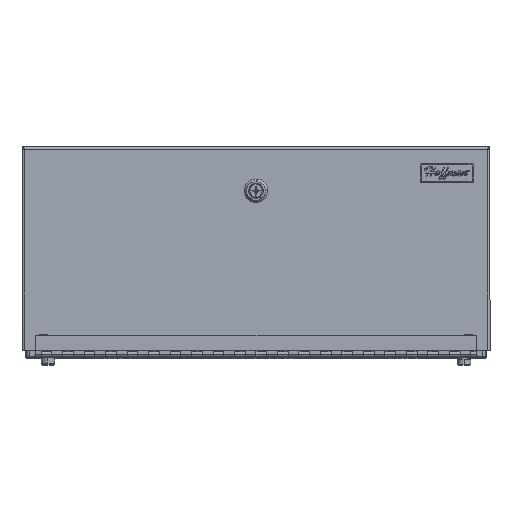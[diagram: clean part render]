
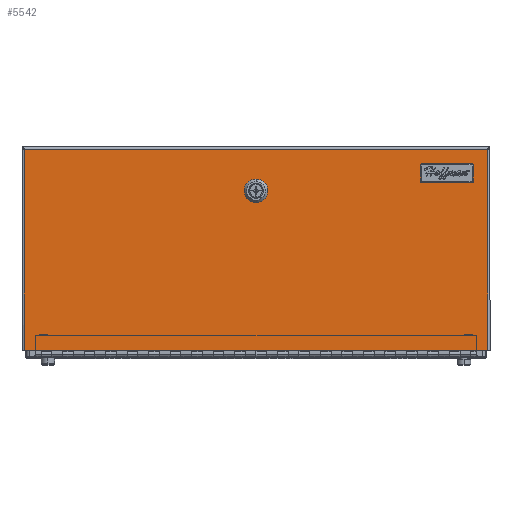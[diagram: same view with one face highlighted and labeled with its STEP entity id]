
A CAD part, top view. The second image highlights one B-rep face of the part: STEP entity #5542.
In plain terms, the highlighted planar face has unit normal (0, 0, 1) as drawn and (0, 0, -1) by its records, which use the part's own axes.
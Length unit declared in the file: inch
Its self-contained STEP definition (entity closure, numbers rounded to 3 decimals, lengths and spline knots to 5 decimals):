
#1524 = ORIENTED_EDGE ( 'NONE', *, *, #1527, .F. ) ;
#1527 = EDGE_CURVE ( 'NONE', #1529, #1557, #61099, .T. ) ;
#1529 = VERTEX_POINT ( 'NONE', #61091 ) ;
#1554 = ORIENTED_EDGE ( 'NONE', *, *, #1587, .F. ) ;
#1555 = ORIENTED_EDGE ( 'NONE', *, *, #1556, .F. ) ;
#1556 = EDGE_CURVE ( 'NONE', #1557, #5264, #56895, .T. ) ;
#1557 = VERTEX_POINT ( 'NONE', #56890 ) ;
#1558 = VERTEX_POINT ( 'NONE', #56889 ) ;
#1559 = VERTEX_POINT ( 'NONE', #56888 ) ;
#1561 = EDGE_CURVE ( 'NONE', #5241, #1565, #56887, .T. ) ;
#1565 = VERTEX_POINT ( 'NONE', #56883 ) ;
#1567 = ORIENTED_EDGE ( 'NONE', *, *, #1568, .F. ) ;
#1568 = EDGE_CURVE ( 'NONE', #5248, #1565, #56882, .T. ) ;
#1582 = ORIENTED_EDGE ( 'NONE', *, *, #1583, .F. ) ;
#1583 = EDGE_CURVE ( 'NONE', #1586, #5256, #56866, .T. ) ;
#1586 = VERTEX_POINT ( 'NONE', #56862 ) ;
#1587 = EDGE_CURVE ( 'NONE', #1558, #1586, #56955, .T. ) ;
#1588 = EDGE_LOOP ( 'NONE', ( #1591, #5239, #5242, #1567 ) ) ;
#1591 = ORIENTED_EDGE ( 'NONE', *, *, #1593, .T. ) ;
#1593 = EDGE_CURVE ( 'NONE', #5248, #5250, #56956, .T. ) ;
#1595 = EDGE_CURVE ( 'NONE', #1559, #1558, #56947, .T. ) ;
#1596 = ORIENTED_EDGE ( 'NONE', *, *, #5287, .F. ) ;
#5239 = ORIENTED_EDGE ( 'NONE', *, *, #5240, .T. ) ;
#5240 = EDGE_CURVE ( 'NONE', #5250, #5241, #63819, .T. ) ;
#5241 = VERTEX_POINT ( 'NONE', #63814 ) ;
#5242 = ORIENTED_EDGE ( 'NONE', *, *, #1561, .T. ) ;
#5244 = ORIENTED_EDGE ( 'NONE', *, *, #5246, .F. ) ;
#5246 = EDGE_CURVE ( 'NONE', #5264, #5285, #63811, .T. ) ;
#5248 = VERTEX_POINT ( 'NONE', #63803 ) ;
#5250 = VERTEX_POINT ( 'NONE', #63801 ) ;
#5252 = ORIENTED_EDGE ( 'NONE', *, *, #5254, .F. ) ;
#5254 = EDGE_CURVE ( 'NONE', #5256, #1529, #63799, .T. ) ;
#5256 = VERTEX_POINT ( 'NONE', #63792 ) ;
#5264 = VERTEX_POINT ( 'NONE', #63964 ) ;
#5285 = VERTEX_POINT ( 'NONE', #64111 ) ;
#5287 = EDGE_CURVE ( 'NONE', #5285, #1559, #64107, .T. ) ;
#5542 = ADVANCED_FACE ( 'NONE', ( #64864, #64862 ), #64860, .F. ) ;
#5544 = EDGE_LOOP ( 'NONE', ( #5545, #1596, #5244, #1555, #1524, #5252, #1582, #1554 ) ) ;
#5545 = ORIENTED_EDGE ( 'NONE', *, *, #1595, .F. ) ;
#56862 = CARTESIAN_POINT ( 'NONE',  ( 0.19957, 2.3185, 0. ) ) ;
#56863 = DIRECTION ( 'NONE',  ( -1., 0., 0. ) ) ;
#56864 = VECTOR ( 'NONE', #56863, 39.37008 ) ;
#56865 = CARTESIAN_POINT ( 'NONE',  ( 0.19957, 2.3185, 0. ) ) ;
#56866 = LINE ( 'NONE', #56865, #56864 ) ;
#56879 = DIRECTION ( 'NONE',  ( 1., 0., 0. ) ) ;
#56880 = VECTOR ( 'NONE', #56879, 39.37008 ) ;
#56881 = CARTESIAN_POINT ( 'NONE',  ( -10.848, -4.709, 0. ) ) ;
#56882 = LINE ( 'NONE', #56881, #56880 ) ;
#56883 = CARTESIAN_POINT ( 'NONE',  ( 10.788, -4.709, 0. ) ) ;
#56884 = DIRECTION ( 'NONE',  ( 0., -1., 0. ) ) ;
#56885 = VECTOR ( 'NONE', #56884, 39.37008 ) ;
#56886 = CARTESIAN_POINT ( 'NONE',  ( 10.788, 4.70193, 0. ) ) ;
#56887 = LINE ( 'NONE', #56886, #56885 ) ;
#56888 = CARTESIAN_POINT ( 'NONE',  ( 0.3955, 2.91357, 0. ) ) ;
#56889 = CARTESIAN_POINT ( 'NONE',  ( 0.3955, 2.51443, 0. ) ) ;
#56890 = CARTESIAN_POINT ( 'NONE',  ( -0.3955, 2.91357, 0. ) ) ;
#56891 = DIRECTION ( 'NONE',  ( -1., 0., 0. ) ) ;
#56892 = DIRECTION ( 'NONE',  ( 0., 0., -1. ) ) ;
#56893 = CARTESIAN_POINT ( 'NONE',  ( 0., 2.714, 0. ) ) ;
#56894 = AXIS2_PLACEMENT_3D ( 'NONE', #56893, #56892, #56891 ) ;
#56895 = CIRCLE ( 'NONE', #56894, 0.443 ) ;
#56944 = DIRECTION ( 'NONE',  ( 0., -1., 0. ) ) ;
#56945 = VECTOR ( 'NONE', #56944, 39.37008 ) ;
#56946 = CARTESIAN_POINT ( 'NONE',  ( 0.3955, 2.91357, 0. ) ) ;
#56947 = LINE ( 'NONE', #56946, #56945 ) ;
#56948 = DIRECTION ( 'NONE',  ( 0., 1., 0. ) ) ;
#56949 = VECTOR ( 'NONE', #56948, 39.37008 ) ;
#56950 = CARTESIAN_POINT ( 'NONE',  ( -10.788, -4.709, 0. ) ) ;
#56951 = DIRECTION ( 'NONE',  ( -1., 0., 0. ) ) ;
#56952 = DIRECTION ( 'NONE',  ( 0., 0., -1. ) ) ;
#56953 = CARTESIAN_POINT ( 'NONE',  ( 0., 2.714, 0. ) ) ;
#56954 = AXIS2_PLACEMENT_3D ( 'NONE', #56953, #56952, #56951 ) ;
#56955 = CIRCLE ( 'NONE', #56954, 0.443 ) ;
#56956 = LINE ( 'NONE', #56950, #56949 ) ;
#61091 = CARTESIAN_POINT ( 'NONE',  ( -0.3955, 2.51443, 0. ) ) ;
#61092 = DIRECTION ( 'NONE',  ( 0., 1., 0. ) ) ;
#61093 = VECTOR ( 'NONE', #61092, 39.37008 ) ;
#61094 = CARTESIAN_POINT ( 'NONE',  ( -0.3955, 2.91357, 0. ) ) ;
#61099 = LINE ( 'NONE', #61094, #61093 ) ;
#63792 = CARTESIAN_POINT ( 'NONE',  ( -0.19957, 2.3185, 0. ) ) ;
#63793 = DIRECTION ( 'NONE',  ( -1., 0., 0. ) ) ;
#63794 = DIRECTION ( 'NONE',  ( 0., 0., -1. ) ) ;
#63795 = CARTESIAN_POINT ( 'NONE',  ( 0., 2.714, 0. ) ) ;
#63797 = AXIS2_PLACEMENT_3D ( 'NONE', #63795, #63794, #63793 ) ;
#63799 = CIRCLE ( 'NONE', #63797, 0.443 ) ;
#63801 = CARTESIAN_POINT ( 'NONE',  ( -10.788, 4.649, 0. ) ) ;
#63803 = CARTESIAN_POINT ( 'NONE',  ( -10.788, -4.709, 0. ) ) ;
#63806 = DIRECTION ( 'NONE',  ( 1., 0., 0. ) ) ;
#63808 = VECTOR ( 'NONE', #63806, 39.37008 ) ;
#63810 = CARTESIAN_POINT ( 'NONE',  ( 0.19957, 3.1095, 0. ) ) ;
#63811 = LINE ( 'NONE', #63810, #63808 ) ;
#63814 = CARTESIAN_POINT ( 'NONE',  ( 10.788, 4.649, 0. ) ) ;
#63815 = DIRECTION ( 'NONE',  ( 1., 0., 0. ) ) ;
#63816 = VECTOR ( 'NONE', #63815, 39.37008 ) ;
#63818 = CARTESIAN_POINT ( 'NONE',  ( -10.84093, 4.649, 0. ) ) ;
#63819 = LINE ( 'NONE', #63818, #63816 ) ;
#63964 = CARTESIAN_POINT ( 'NONE',  ( -0.19957, 3.1095, 0. ) ) ;
#64102 = DIRECTION ( 'NONE',  ( -1., 0., 0. ) ) ;
#64104 = DIRECTION ( 'NONE',  ( 0., 0., -1. ) ) ;
#64105 = CARTESIAN_POINT ( 'NONE',  ( 0., 2.714, 0. ) ) ;
#64106 = AXIS2_PLACEMENT_3D ( 'NONE', #64105, #64104, #64102 ) ;
#64107 = CIRCLE ( 'NONE', #64106, 0.443 ) ;
#64111 = CARTESIAN_POINT ( 'NONE',  ( 0.19957, 3.1095, 0. ) ) ;
#64854 = DIRECTION ( 'NONE',  ( 1., 0., 0. ) ) ;
#64856 = DIRECTION ( 'NONE',  ( 0., 0., 1. ) ) ;
#64857 = CARTESIAN_POINT ( 'NONE',  ( -10.848, -4.709, 0. ) ) ;
#64858 = AXIS2_PLACEMENT_3D ( 'NONE', #64857, #64856, #64854 ) ;
#64860 = PLANE ( 'NONE',  #64858 ) ;
#64862 = FACE_OUTER_BOUND ( 'NONE', #1588, .T. ) ;
#64864 = FACE_BOUND ( 'NONE', #5544, .T. ) ;
